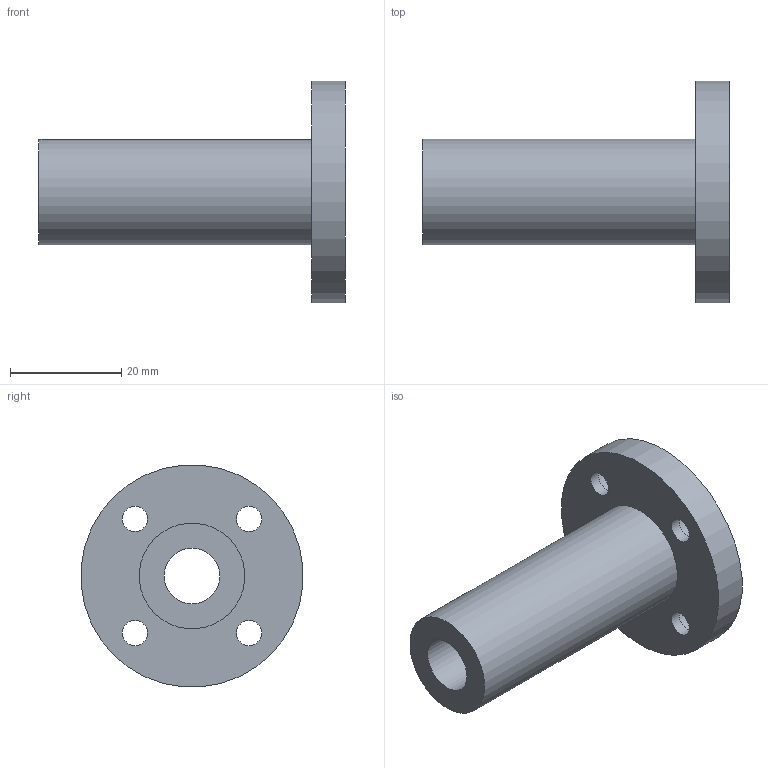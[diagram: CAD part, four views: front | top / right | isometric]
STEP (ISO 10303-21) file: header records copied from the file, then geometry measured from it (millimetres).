
FILE_DESCRIPTION(/* description */ (''),/* implementation_level */ '2;1');
FILE_NAME(/* name */ 'LMF10LUU',/* time_stamp */ '2019-07-03T10:02:29+02:00',/* author */ ('VĂ©gh MĂˇtĂ©'),/* organization */ ('Bearing Kft'),/* preprocessor_version */ 'ST-DEVELOPER v16.7',/* originating_system */ 'DEX',/* authorisation */ $);
FILE_SCHEMA (('AUTOMOTIVE_DESIGN {1 0 10303 214 3 1 1}'));
Length unit declared in the file: millimetre
Products named in the file (1): LMF10LUU
Bounding box: 55 x 39.85 x 39.85 mm (x, y, z)
Volume: 16266.6 mm3; surface area: 8142.2 mm2
Topology: 1 solids, 1 shells, 325 faces, 813 edges, 542 vertices
Faces by surface type: plane 251, bspline 60, cylinder 14
Full cylindrical faces by diameter (mm): 4.5 x4, 7.5 x4, 10 x1, 19 x1, 40 x1
Entity records: 12129 total; most frequent: CARTESIAN_POINT 4721, ORIENTED_EDGE 1598, DIRECTION 1239, EDGE_CURVE 799, LINE 651, VECTOR 651, VERTEX_POINT 542, EDGE_LOOP 401
